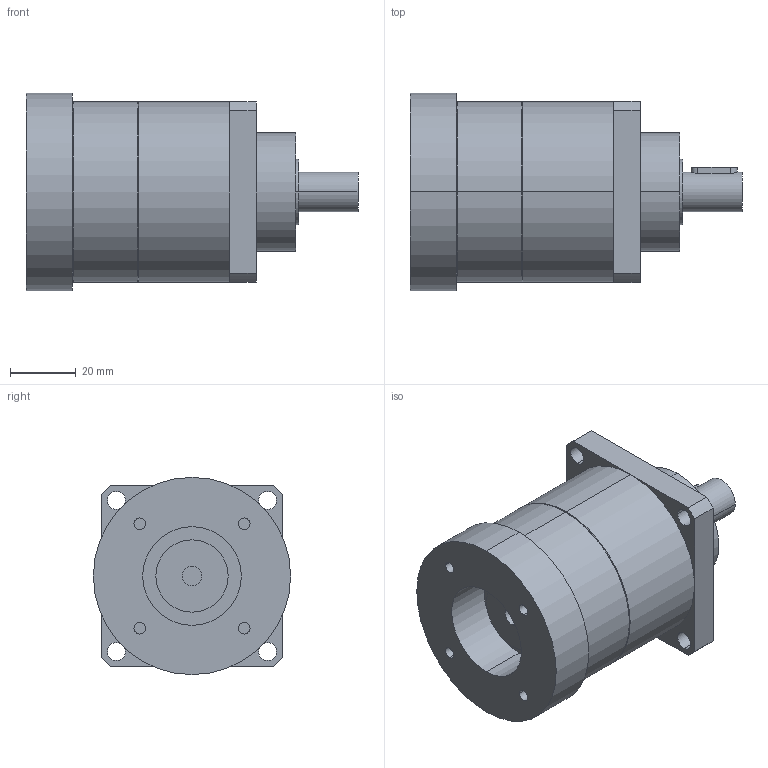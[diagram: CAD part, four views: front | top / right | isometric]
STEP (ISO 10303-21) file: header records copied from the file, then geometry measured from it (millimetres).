
FILE_DESCRIPTION(('CoCreate Modeling STEP Export'),'2;1');
FILE_NAME('GPT55_ig-3-4-5-7-10_12_B5A_6_P16.stp','2014-08-25T14:32:46',(''),(''),'CoCreate Modeling STEP processor for AP214 (Solid Model)','CoCreate Modeling 16.00C 25-Feb-2009 (C) Parametric Technology GmbH','');
FILE_SCHEMA(('AUTOMOTIVE_DESIGN { 1 0 10303 214 1 1 1 1 }'));
Length unit declared in the file: millimetre
Products named in the file (2): GPT55_ig-3-4-5-7-10_12_B5A_6_P16
Assembly tree (1 placements, depth 2):
  GPT55_ig-3-4-5-7-10_12_B5A_6_P16
    GPT55_ig-3-4-5-7-10_12_B5A_6_P16
Bounding box: 101 x 60 x 60 mm (x, y, z)
Volume: 181510.2 mm3; surface area: 24930.8 mm2
Topology: 1 solids, 1 shells, 72 faces, 180 edges, 123 vertices
Faces by surface type: cylinder 42, plane 26, cone 4
Entity records: 2237 total; most frequent: CARTESIAN_POINT 661, ORIENTED_EDGE 360, DIRECTION 268, EDGE_CURVE 180, VERTEX_POINT 123, AXIS2_PLACEMENT_3D 100, EDGE_LOOP 93, FACE_OUTER_BOUND 72
